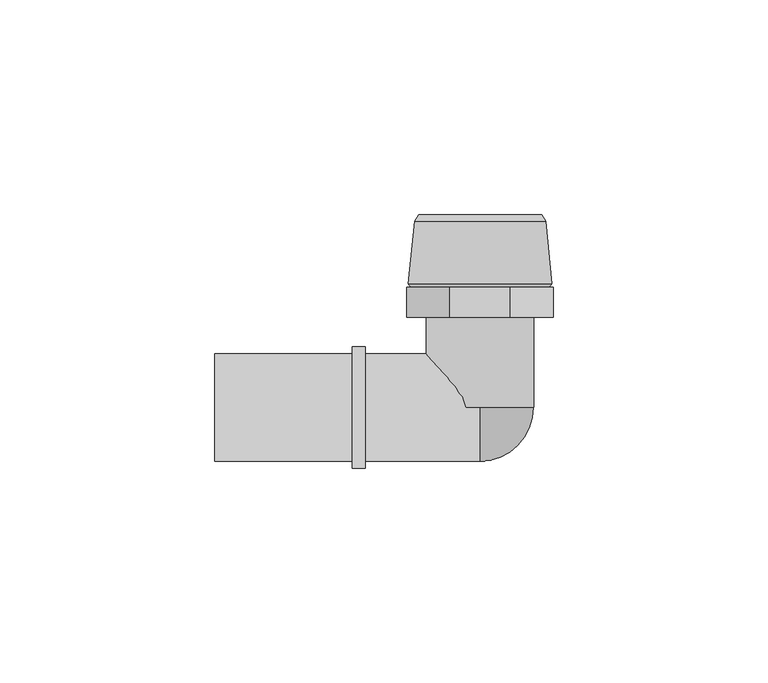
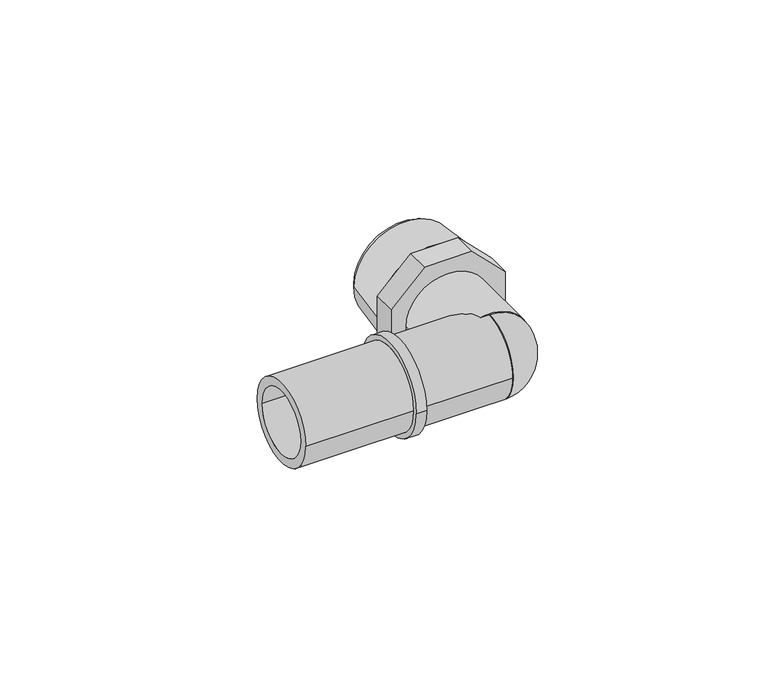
"""IFC4 building model written with IfcOpenShell, lengths in millimetres: pipe fitting geometry, FASTLOC_Elbow with male thread LX : FSL A internal PL."""

from ifc_helpers import new_model, si_unit, point, frame, origin, origin_2d, place, context, project, spatial, polyline, circle_curve, ellipse_curve, trimmed, segment, composite_curve, outline, extrude, source, transform, mapped, element, save
from ifc_brep_helpers import plane_surface, cylinder_surface, revolved_surface, advanced_brep


def pipe_fitting_3acb888a(model_context):
    return source(origin(), model_context, "Body", "SolidModel", [
        extrude(outline(composite_curve([segment(trimmed(circle_curve(origin_2d(), 12.5), [point((0.0, -12.5))], [point((0.0, 12.5))], False, "CARTESIAN"), True, "CONTINUOUS"), segment(trimmed(circle_curve(origin_2d(), 12.5), [point((0.0, 12.5))], [point((0.0, -12.5))], False, "CARTESIAN"), True, "CONTINUOUS")], self_intersect=False), holes=[composite_curve([segment(trimmed(circle_curve(origin_2d(), 9.85), [point((0.0, -9.85))], [point((0.0, 9.85))], True, "CARTESIAN"), True, "CONTINUOUS"), segment(trimmed(circle_curve(origin_2d(), 9.85), [point((0.0, 9.85))], [point((0.0, -9.85))], True, "CARTESIAN"), True, "CONTINUOUS")], self_intersect=False)]), frame((0.0, 0.0, 0.0), z_axis=(0.0, 1.0, 0.0), x_axis=(0.0, 0.0, 1.0)), (0.0, 0.0, 1.0), 21.0),
        extrude(outline(polyline([(-17.0, 7.0416306), (-7.0416306, 17.0), (7.0416306, 17.0), (17.0, 7.0416306), (17.0, -7.0416306), (7.0416306, -17.0), (-7.0416306, -17.0), (-17.0, -7.0416306), (-17.0, 7.0416306)])), frame((0.0, 21.0, 0.0), z_axis=(0.0, 1.0, 0.0), x_axis=(0.0, 0.0, 1.0)), (0.0, 0.0, 1.0), 7.0),
        advanced_brep(
        [(0.0, -12.5, 0.0), (0.0, 0.0, 12.5), (0.0, 0.0, 9.85), (0.0, -9.85, 0.0), (0.0, 0.0, -9.85), (0.0, 0.0, -12.5)],
        [
            (0, 1, circle_curve(frame((0.0, 0.0, 0.0), z_axis=(-1.0, 0.0, 0.0), x_axis=(0.0, 0.0, 1.0)), 12.5)),
            (1, 2),
            (2, 3, circle_curve(frame((0.0, 0.0, 0.0), z_axis=(1.0, 0.0, 0.0), x_axis=(0.0, 0.0, 1.0)), 9.85)),
            (3, 0),
            (3, 4, circle_curve(frame((0.0, 0.0, 0.0), z_axis=(1.0, 0.0, 0.0), x_axis=(0.0, 0.0, -1.0)), 9.85)),
            (4, 5),
            (5, 0, circle_curve(frame((0.0, 0.0, 0.0), z_axis=(-1.0, 0.0, 0.0), x_axis=(0.0, 0.0, -1.0)), 12.5)),
            (5, 1, circle_curve(frame((0.0, 0.0, 0.0), z_axis=(0.0, -1.0, 0.0), x_axis=(0.0, 0.0, 1.0)), 12.5)),
            (4, 2, circle_curve(frame((0.0, 0.0, 0.0), z_axis=(0.0, -1.0, 0.0), x_axis=(0.0, 0.0, 1.0)), 9.85)),
        ],
        [
            plane_surface(frame((0.0, 0.0, 0.0), z_axis=(-1.0, 0.0, 0.0), x_axis=(0.0, 0.0, 1.0))),
            plane_surface(frame((0.0, 0.0, 0.0), z_axis=(-1.0, 0.0, 0.0), x_axis=(0.0, 0.0, -1.0))),
            revolved_surface(trimmed(ellipse_curve(frame((0.0, 0.0, 0.0), z_axis=(-1.0, 0.0, 0.0), x_axis=(0.0, 0.0, 1.0)), 12.5, 12.5), [point((0.0, -12.5, 0.0))], [point((0.0, 0.0, 12.5))], True, "CARTESIAN"), (0.0, 0.0, 0.0), (0.0, 1.0, 0.0)),
            plane_surface(frame((0.0, 0.0, 0.0), z_axis=(0.0, 1.0, 0.0), x_axis=(0.0, 0.0, 1.0))),
            revolved_surface(trimmed(ellipse_curve(frame((0.0, 0.0, 0.0), z_axis=(1.0, 0.0, 0.0), x_axis=(0.0, 0.0, 1.0)), 9.85, 9.85), [point((0.0, 0.0, 9.85))], [point((0.0, -9.85, 0.0))], True, "CARTESIAN"), (0.0, 0.0, 0.0), (0.0, 1.0, 0.0)),
        ],
        [
            (0, [[1, 2, 3, 4]]),
            (1, [[5, 6, 7, -4]]),
            (2, [[8, -1, -7]]),
            (3, [[9, -2, -8, -6]]),
            (4, [[-3, -9, -5]]),
        ],
    ),
        advanced_brep(
        [(15.25, 43.3000007, 0.0), (-15.25, 43.3000007, 0.0), (-14.3, 44.8, 0.0), (14.3, 44.8, 0.0), (16.7, 28.7406902, 0.0), (-16.7, 28.7406902, 0.0), (16.1, 28.0, 0.0), (-16.1, 28.0, 0.0), (12.0, 29.1032803, 0.0), (-12.0, 29.1032803, 0.0), (-10.8967197, 28.0, 0.0), (10.8967197, 28.0, 0.0), (12.0, 44.8, 0.0), (-12.0, 44.8, 0.0)],
        [
            (0, 1, circle_curve(frame((0.0, 43.3000007, 0.0), z_axis=(0.0, 1.0, 0.0), x_axis=(-1.0, 0.0, 0.0)), 15.25)),
            (1, 2),
            (2, 3, circle_curve(frame((0.0, 44.8, 0.0), z_axis=(0.0, -1.0, 0.0), x_axis=(-1.0, 0.0, 0.0)), 14.3)),
            (3, 0),
            (4, 5, circle_curve(frame((0.0, 28.7406902, 0.0), z_axis=(0.0, 1.0, 0.0), x_axis=(-1.0, 0.0, 0.0)), 16.7)),
            (5, 1),
            (0, 4),
            (6, 7, circle_curve(frame((0.0, 28.0, 0.0), z_axis=(0.0, 1.0, 0.0), x_axis=(-1.0, 0.0, 0.0)), 16.1)),
            (7, 5),
            (4, 6),
            (8, 9, circle_curve(frame((0.0, 29.1032803, 0.0), z_axis=(0.0, 1.0, 0.0), x_axis=(-1.0, 0.0, 0.0)), 12.0)),
            (9, 10),
            (10, 11, circle_curve(frame((0.0, 28.0, 0.0), z_axis=(0.0, -1.0, 0.0), x_axis=(-1.0, 0.0, 0.0)), 10.8967197)),
            (11, 8),
            (12, 13, circle_curve(frame((0.0, 44.8, 0.0), z_axis=(0.0, 1.0, 0.0), x_axis=(-1.0, 0.0, 0.0)), 12.0)),
            (13, 9),
            (8, 12),
            (2, 3, circle_curve(frame((0.0, 44.8, 0.0), z_axis=(0.0, 1.0, 0.0), x_axis=(1.0, 0.0, 0.0)), 14.3)),
            (12, 13, circle_curve(frame((0.0, 44.8, 0.0), z_axis=(0.0, -1.0, 0.0), x_axis=(1.0, 0.0, 0.0)), 12.0)),
            (1, 0, circle_curve(frame((0.0, 43.3000007, 0.0), z_axis=(0.0, 1.0, 0.0), x_axis=(1.0, 0.0, 0.0)), 15.25)),
            (5, 4, circle_curve(frame((0.0, 28.7406902, 0.0), z_axis=(0.0, 1.0, 0.0), x_axis=(1.0, 0.0, 0.0)), 16.7)),
            (7, 6, circle_curve(frame((0.0, 28.0, 0.0), z_axis=(0.0, 1.0, 0.0), x_axis=(1.0, 0.0, 0.0)), 16.1)),
            (10, 11, circle_curve(frame((0.0, 28.0, 0.0), z_axis=(0.0, 1.0, 0.0), x_axis=(1.0, 0.0, 0.0)), 10.8967197)),
            (9, 8, circle_curve(frame((0.0, 29.1032803, 0.0), z_axis=(0.0, 1.0, 0.0), x_axis=(1.0, 0.0, 0.0)), 12.0)),
        ],
        [
            revolved_surface(polyline([(-14.3, 44.8, 0.0), (-15.25, 43.3000007, 0.0)]), (0.0, 21.0, 0.0), (0.0, -1.0, 0.0)),
            revolved_surface(polyline([(-15.25, 43.3000007, 0.0), (-16.7, 28.7406902, 0.0)]), (0.0, 21.0, 0.0), (0.0, -1.0, 0.0)),
            revolved_surface(polyline([(-16.7, 28.7406902, 0.0), (-16.1, 28.0, 0.0)]), (0.0, 21.0, 0.0), (0.0, -1.0, 0.0)),
            revolved_surface(polyline([(-10.8967197, 28.0, 0.0), (-12.0, 29.1032803, 0.0)]), (0.0, 21.0, 0.0), (0.0, -1.0, 0.0)),
            revolved_surface(polyline([(-12.0, 29.1032803, 0.0), (-12.0, 44.8, 0.0)]), (0.0, 21.0, 0.0), (0.0, -1.0, 0.0)),
            plane_surface(frame((0.0, 44.8, 0.0), z_axis=(0.0, 1.0, 0.0), x_axis=(1.0, 0.0, 0.0))),
            revolved_surface(polyline([(14.3, 44.8, 0.0), (15.25, 43.3000007, 0.0)]), (0.0, 21.0, 0.0), (0.0, -1.0, 0.0)),
            revolved_surface(polyline([(15.25, 43.3000007, 0.0), (16.7, 28.7406902, 0.0)]), (0.0, 21.0, 0.0), (0.0, -1.0, 0.0)),
            revolved_surface(polyline([(16.7, 28.7406902, 0.0), (16.1, 28.0, 0.0)]), (0.0, 21.0, 0.0), (0.0, -1.0, 0.0)),
            plane_surface(frame((0.0, 28.0, 0.0), z_axis=(0.0, -1.0, 0.0), x_axis=(1.0, 0.0, 0.0))),
            revolved_surface(polyline([(10.8967197, 28.0, 0.0), (12.0, 29.1032803, 0.0)]), (0.0, 21.0, 0.0), (0.0, -1.0, 0.0)),
            revolved_surface(polyline([(12.0, 29.1032803, 0.0), (12.0, 44.8, 0.0)]), (0.0, 21.0, 0.0), (0.0, -1.0, 0.0)),
        ],
        [
            (0, [[1, 2, 3, 4]]),
            (1, [[5, 6, -1, 7]]),
            (2, [[8, 9, -5, 10]]),
            (3, [[11, 12, 13, 14]]),
            (4, [[15, 16, -11, 17]]),
            (5, [[18, -3], [19, -15]]),
            (6, [[20, -4, -18, -2]]),
            (7, [[21, -7, -20, -6]]),
            (8, [[22, -10, -21, -9]]),
            (9, [[-22, -8], [23, -13]]),
            (10, [[24, -14, -23, -12]]),
            (11, [[-19, -17, -24, -16]]),
        ],
    ),
        advanced_brep(
        [(-29.7, 12.5, 0.0), (-29.7, -12.5, 0.0), (-61.7, -12.5, 0.0), (-61.7, 12.5, 0.0), (-26.7, 14.1, 0.0), (-26.7, -14.1, 0.0), (-29.7, -14.1, 0.0), (-29.7, 14.1, 0.0), (0.0, 12.5, 0.0), (0.0, -12.5, 0.0), (-26.7, -12.5, 0.0), (-26.7, 12.5, 0.0), (-61.7, 9.85, 0.0), (-61.7, -9.85, 0.0), (0.0, -9.85, 0.0), (0.0, 9.85, 0.0)],
        [
            (0, 1, circle_curve(frame((-29.7, 0.0, 0.0), z_axis=(-1.0, 0.0, 0.0), x_axis=(0.0, -1.0, 0.0)), 12.5)),
            (1, 2),
            (2, 3, circle_curve(frame((-61.7, 0.0, 0.0), z_axis=(1.0, 0.0, 0.0), x_axis=(0.0, -1.0, 0.0)), 12.5)),
            (3, 0),
            (4, 5, circle_curve(frame((-26.7, 0.0, 0.0), z_axis=(-1.0, 0.0, 0.0), x_axis=(0.0, -1.0, 0.0)), 14.1)),
            (5, 6),
            (6, 7, circle_curve(frame((-29.7, 0.0, 0.0), z_axis=(1.0, 0.0, 0.0), x_axis=(0.0, -1.0, 0.0)), 14.1)),
            (7, 4),
            (8, 9, circle_curve(frame((0.0, 0.0, 0.0), z_axis=(-1.0, 0.0, 0.0), x_axis=(0.0, -1.0, 0.0)), 12.5)),
            (9, 10),
            (10, 11, circle_curve(frame((-26.7, 0.0, 0.0), z_axis=(1.0, 0.0, 0.0), x_axis=(0.0, -1.0, 0.0)), 12.5)),
            (11, 8),
            (12, 13, circle_curve(frame((-61.7, 0.0, 0.0), z_axis=(-1.0, 0.0, 0.0), x_axis=(0.0, -1.0, 0.0)), 9.85)),
            (13, 14),
            (14, 15, circle_curve(frame((0.0, 0.0, 0.0), z_axis=(1.0, 0.0, 0.0), x_axis=(0.0, -1.0, 0.0)), 9.85)),
            (15, 12),
            (2, 3, circle_curve(frame((-61.7, 0.0, 0.0), z_axis=(-1.0, 0.0, 0.0), x_axis=(0.0, 1.0, 0.0)), 12.5)),
            (12, 13, circle_curve(frame((-61.7, 0.0, 0.0), z_axis=(1.0, 0.0, 0.0), x_axis=(0.0, 1.0, 0.0)), 9.85)),
            (1, 0, circle_curve(frame((-29.7, 0.0, 0.0), z_axis=(-1.0, 0.0, 0.0), x_axis=(0.0, 1.0, 0.0)), 12.5)),
            (6, 7, circle_curve(frame((-29.7, 0.0, 0.0), z_axis=(-1.0, 0.0, 0.0), x_axis=(0.0, 1.0, 0.0)), 14.1)),
            (5, 4, circle_curve(frame((-26.7, 0.0, 0.0), z_axis=(-1.0, 0.0, 0.0), x_axis=(0.0, 1.0, 0.0)), 14.1)),
            (10, 11, circle_curve(frame((-26.7, 0.0, 0.0), z_axis=(-1.0, 0.0, 0.0), x_axis=(0.0, 1.0, 0.0)), 12.5)),
            (9, 8, circle_curve(frame((0.0, 0.0, 0.0), z_axis=(-1.0, 0.0, 0.0), x_axis=(0.0, 1.0, 0.0)), 12.5)),
            (14, 15, circle_curve(frame((0.0, 0.0, 0.0), z_axis=(-1.0, 0.0, 0.0), x_axis=(0.0, 1.0, 0.0)), 9.85)),
        ],
        [
            cylinder_surface(frame((0.0, 0.0, 0.0), z_axis=(1.0, 0.0, 0.0), x_axis=(0.0, -1.0, 0.0)), 12.5),
            cylinder_surface(frame((0.0, 0.0, 0.0), z_axis=(1.0, 0.0, 0.0), x_axis=(0.0, -1.0, 0.0)), 14.1),
            revolved_surface(polyline([(0.0, -9.85, 0.0), (-61.7, -9.85, 0.0)]), (0.0, 0.0, 0.0), (1.0, 0.0, 0.0)),
            plane_surface(frame((-61.7, 0.0, 0.0), z_axis=(-1.0, 0.0, 0.0), x_axis=(0.0, 1.0, 0.0))),
            cylinder_surface(frame((0.0, 0.0, 0.0), z_axis=(1.0, 0.0, 0.0), x_axis=(0.0, 1.0, 0.0)), 12.5),
            plane_surface(frame((-29.7, 0.0, 0.0), z_axis=(-1.0, 0.0, 0.0), x_axis=(0.0, 1.0, 0.0))),
            cylinder_surface(frame((0.0, 0.0, 0.0), z_axis=(1.0, 0.0, 0.0), x_axis=(0.0, 1.0, 0.0)), 14.1),
            plane_surface(frame((-26.7, 0.0, 0.0), z_axis=(1.0, 0.0, 0.0), x_axis=(0.0, 1.0, 0.0))),
            plane_surface(frame((0.0, 0.0, 0.0), z_axis=(1.0, 0.0, 0.0), x_axis=(0.0, 1.0, 0.0))),
            revolved_surface(polyline([(0.0, 9.85, 0.0), (-61.7, 9.85, 0.0)]), (0.0, 0.0, 0.0), (1.0, 0.0, 0.0)),
        ],
        [
            (0, [[1, 2, 3, 4]]),
            (1, [[5, 6, 7, 8]]),
            (0, [[9, 10, 11, 12]]),
            (2, [[13, 14, 15, 16]]),
            (3, [[17, -3], [18, -13]]),
            (4, [[19, -4, -17, -2]]),
            (5, [[20, -7], [-19, -1]]),
            (6, [[21, -8, -20, -6]]),
            (7, [[-21, -5], [22, -11]]),
            (4, [[23, -12, -22, -10]]),
            (8, [[-23, -9], [24, -15]]),
            (9, [[-18, -16, -24, -14]]),
        ],
    ),
    ])


if __name__ == "__main__":
    model = new_model("IFC4")
    model_context = context("Model", 3, world=origin())
    ifc_project = project(units=[si_unit("LENGTHUNIT", "METRE", prefix="MILLI")], contexts=[model_context])
    site = spatial("IfcSite", under=ifc_project)
    building = spatial("IfcBuilding", under=site)
    placement = place(None, origin())
    pipe_fitting_shape = pipe_fitting_3acb888a(model_context)
    element("IfcPipeFitting", 1, ObjectType="FASTLOC_Elbow with male thread LX : FSL A internal PL", at=placement, inside=building, context=model_context, shape_type="MappedRepresentation", body=[
        mapped(pipe_fitting_shape, transform((0.0, 0.0, 0.0), x_axis=(1.0, 0.0, 0.0), y_axis=(0.0, 1.0, 0.0), z_axis=(0.0, 0.0, 1.0))),
    ])
    save(model, "model.ifc")
